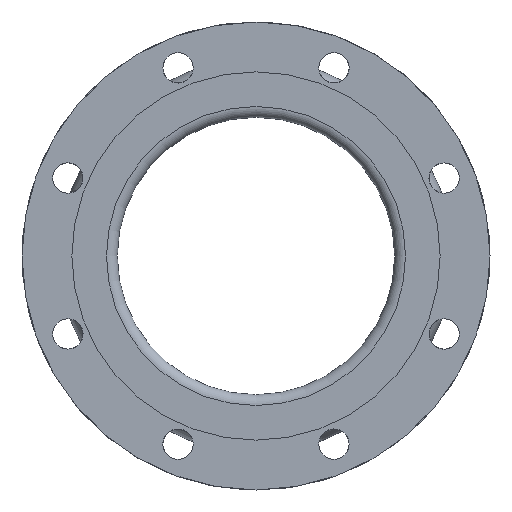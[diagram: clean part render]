
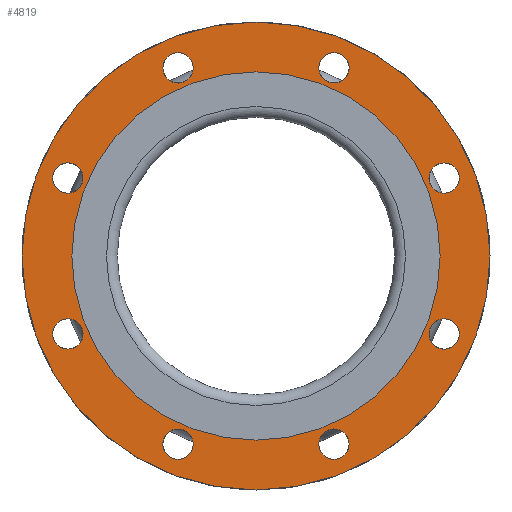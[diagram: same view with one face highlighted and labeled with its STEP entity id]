
A CAD part, left-side view. The second image highlights one B-rep face of the part: STEP entity #4819.
In plain terms, the highlighted planar face has unit normal (-1, 0, 0).
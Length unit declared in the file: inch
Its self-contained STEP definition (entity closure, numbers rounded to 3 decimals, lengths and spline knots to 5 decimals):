
#512=PLANE('',#5137);
#590=FACE_BOUND('',#1047,.T.);
#591=FACE_BOUND('',#1048,.T.);
#592=FACE_BOUND('',#1049,.T.);
#593=FACE_BOUND('',#1050,.T.);
#594=FACE_BOUND('',#1051,.T.);
#595=FACE_BOUND('',#1052,.T.);
#596=FACE_BOUND('',#1053,.T.);
#597=FACE_BOUND('',#1054,.T.);
#598=FACE_BOUND('',#1055,.T.);
#750=FACE_OUTER_BOUND('',#1046,.T.);
#1046=EDGE_LOOP('',(#3042));
#1047=EDGE_LOOP('',(#3043));
#1048=EDGE_LOOP('',(#3044));
#1049=EDGE_LOOP('',(#3045));
#1050=EDGE_LOOP('',(#3046));
#1051=EDGE_LOOP('',(#3047));
#1052=EDGE_LOOP('',(#3048));
#1053=EDGE_LOOP('',(#3049));
#1054=EDGE_LOOP('',(#3050));
#1055=EDGE_LOOP('',(#3051));
#1455=CIRCLE('',#5091,0.4375);
#1457=CIRCLE('',#5094,0.4375);
#1459=CIRCLE('',#5097,0.4375);
#1461=CIRCLE('',#5100,0.4375);
#1463=CIRCLE('',#5103,0.4375);
#1465=CIRCLE('',#5106,0.4375);
#1467=CIRCLE('',#5109,0.4375);
#1469=CIRCLE('',#5112,0.4375);
#1486=CIRCLE('',#5138,6.75);
#1487=CIRCLE('',#5139,5.3125);
#1875=VERTEX_POINT('',#7419);
#1877=VERTEX_POINT('',#7424);
#1879=VERTEX_POINT('',#7429);
#1881=VERTEX_POINT('',#7434);
#1883=VERTEX_POINT('',#7439);
#1885=VERTEX_POINT('',#7444);
#1887=VERTEX_POINT('',#7449);
#1889=VERTEX_POINT('',#7454);
#1906=VERTEX_POINT('',#7497);
#1907=VERTEX_POINT('',#7499);
#2351=EDGE_CURVE('',#1875,#1875,#1455,.T.);
#2353=EDGE_CURVE('',#1877,#1877,#1457,.T.);
#2355=EDGE_CURVE('',#1879,#1879,#1459,.T.);
#2357=EDGE_CURVE('',#1881,#1881,#1461,.T.);
#2359=EDGE_CURVE('',#1883,#1883,#1463,.T.);
#2361=EDGE_CURVE('',#1885,#1885,#1465,.T.);
#2363=EDGE_CURVE('',#1887,#1887,#1467,.T.);
#2365=EDGE_CURVE('',#1889,#1889,#1469,.T.);
#2382=EDGE_CURVE('',#1906,#1906,#1486,.T.);
#2383=EDGE_CURVE('',#1907,#1907,#1487,.T.);
#3042=ORIENTED_EDGE('',*,*,#2382,.F.);
#3043=ORIENTED_EDGE('',*,*,#2351,.T.);
#3044=ORIENTED_EDGE('',*,*,#2353,.T.);
#3045=ORIENTED_EDGE('',*,*,#2355,.T.);
#3046=ORIENTED_EDGE('',*,*,#2357,.T.);
#3047=ORIENTED_EDGE('',*,*,#2359,.T.);
#3048=ORIENTED_EDGE('',*,*,#2361,.T.);
#3049=ORIENTED_EDGE('',*,*,#2363,.T.);
#3050=ORIENTED_EDGE('',*,*,#2365,.T.);
#3051=ORIENTED_EDGE('',*,*,#2383,.T.);
#4819=ADVANCED_FACE('',(#750,#590,#591,#592,#593,#594,#595,#596,#597,#598),
#512,.T.);
#5091=AXIS2_PLACEMENT_3D('',#7420,#5795,#5796);
#5094=AXIS2_PLACEMENT_3D('',#7425,#5801,#5802);
#5097=AXIS2_PLACEMENT_3D('',#7430,#5807,#5808);
#5100=AXIS2_PLACEMENT_3D('',#7435,#5813,#5814);
#5103=AXIS2_PLACEMENT_3D('',#7440,#5819,#5820);
#5106=AXIS2_PLACEMENT_3D('',#7445,#5825,#5826);
#5109=AXIS2_PLACEMENT_3D('',#7450,#5831,#5832);
#5112=AXIS2_PLACEMENT_3D('',#7455,#5837,#5838);
#5137=AXIS2_PLACEMENT_3D('',#7496,#5887,#5888);
#5138=AXIS2_PLACEMENT_3D('',#7498,#5889,#5890);
#5139=AXIS2_PLACEMENT_3D('',#7500,#5891,#5892);
#5795=DIRECTION('center_axis',(1.,0.,0.));
#5796=DIRECTION('ref_axis',(0.,-0.707,-0.707));
#5801=DIRECTION('center_axis',(1.,0.,0.));
#5802=DIRECTION('ref_axis',(0.,-1.,0.));
#5807=DIRECTION('center_axis',(1.,0.,0.));
#5808=DIRECTION('ref_axis',(0.,-0.707,0.707));
#5813=DIRECTION('center_axis',(1.,0.,0.));
#5814=DIRECTION('ref_axis',(0.,0.,1.));
#5819=DIRECTION('center_axis',(1.,0.,0.));
#5820=DIRECTION('ref_axis',(0.,0.707,0.707));
#5825=DIRECTION('center_axis',(1.,0.,0.));
#5826=DIRECTION('ref_axis',(0.,1.,0.));
#5831=DIRECTION('center_axis',(1.,0.,0.));
#5832=DIRECTION('ref_axis',(0.,0.707,-0.707));
#5837=DIRECTION('center_axis',(1.,0.,0.));
#5838=DIRECTION('ref_axis',(0.,0.,-1.));
#5887=DIRECTION('center_axis',(-1.,0.,0.));
#5888=DIRECTION('ref_axis',(0.,0.,1.));
#5889=DIRECTION('center_axis',(1.,0.,0.));
#5890=DIRECTION('ref_axis',(0.,0.,-1.));
#5891=DIRECTION('center_axis',(1.,0.,0.));
#5892=DIRECTION('ref_axis',(0.,0.,-1.));
#7419=CARTESIAN_POINT('',(-5.,2.55762,-5.11843));
#7420=CARTESIAN_POINT('Origin',(-5.,2.24827,-5.42779));
#7424=CARTESIAN_POINT('',(-5.,-1.81077,-5.42779));
#7425=CARTESIAN_POINT('Origin',(-5.,-2.24827,-5.42779));
#7429=CARTESIAN_POINT('',(-5.,-5.11843,-2.55762));
#7430=CARTESIAN_POINT('Origin',(-5.,-5.42779,-2.24827));
#7434=CARTESIAN_POINT('',(-5.,-5.42779,1.81077));
#7435=CARTESIAN_POINT('Origin',(-5.,-5.42779,2.24827));
#7439=CARTESIAN_POINT('',(-5.,-2.55762,5.11843));
#7440=CARTESIAN_POINT('Origin',(-5.,-2.24827,5.42779));
#7444=CARTESIAN_POINT('',(-5.,1.81077,5.42779));
#7445=CARTESIAN_POINT('Origin',(-5.,2.24827,5.42779));
#7449=CARTESIAN_POINT('',(-5.,5.11843,2.55762));
#7450=CARTESIAN_POINT('Origin',(-5.,5.42779,2.24827));
#7454=CARTESIAN_POINT('',(-5.,5.42779,-1.81077));
#7455=CARTESIAN_POINT('Origin',(-5.,5.42779,-2.24827));
#7496=CARTESIAN_POINT('Origin',(-5.,6.75,0.));
#7497=CARTESIAN_POINT('',(-5.,6.75,0.));
#7498=CARTESIAN_POINT('Origin',(-5.,0.,0.));
#7499=CARTESIAN_POINT('',(-5.,5.3125,0.));
#7500=CARTESIAN_POINT('Origin',(-5.,0.,0.));
